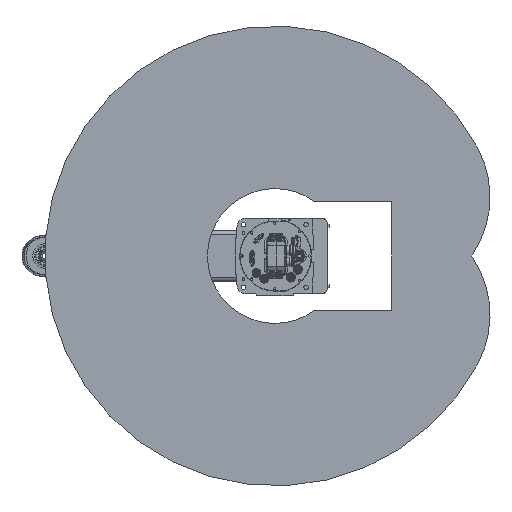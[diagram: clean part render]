
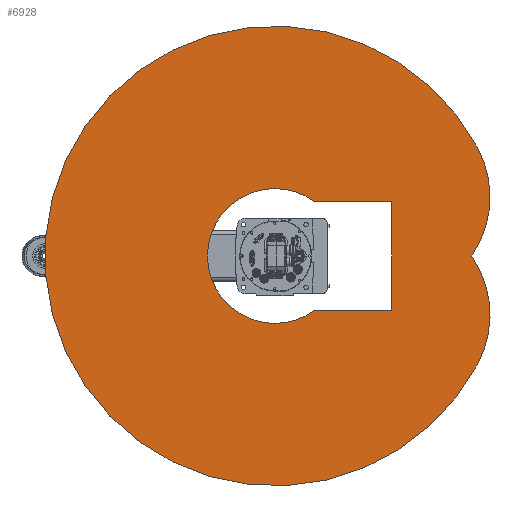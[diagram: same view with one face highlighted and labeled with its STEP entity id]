
A CAD part, front view. The second image highlights one B-rep face of the part: STEP entity #6928.
In plain terms, the highlighted planar face has unit normal (0, -1, 0).
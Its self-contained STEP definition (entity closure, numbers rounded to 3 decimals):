
#6928 = ADVANCED_FACE( '', ( #16084, #16085 ), #16086, .F. );
#16084 = FACE_OUTER_BOUND( '', #27835, .T. );
#16085 = FACE_BOUND( '', #27836, .T. );
#16086 = PLANE( '', #27837 );
#27835 = EDGE_LOOP( '', ( #47462, #47463, #47464 ) );
#27836 = EDGE_LOOP( '', ( #47465, #47466, #47467, #47468 ) );
#27837 = AXIS2_PLACEMENT_3D( '', #47469, #47470, #47471 );
#47462 = ORIENTED_EDGE( '', *, *, #64867, .F. );
#47463 = ORIENTED_EDGE( '', *, *, #62604, .F. );
#47464 = ORIENTED_EDGE( '', *, *, #63249, .F. );
#47465 = ORIENTED_EDGE( '', *, *, #67323, .T. );
#47466 = ORIENTED_EDGE( '', *, *, #63474, .T. );
#47467 = ORIENTED_EDGE( '', *, *, #65746, .T. );
#47468 = ORIENTED_EDGE( '', *, *, #67324, .T. );
#47469 = CARTESIAN_POINT( '', ( 70.421, 0., 132.442 ) );
#47470 = DIRECTION( '', ( 0., 1., 0. ) );
#47471 = DIRECTION( '', ( 0., 0., 1. ) );
#62604 = EDGE_CURVE( '', #74491, #74492, #74493, .T. );
#63249 = EDGE_CURVE( '', #75582, #74491, #75583, .T. );
#63474 = EDGE_CURVE( '', #75954, #75955, #75956, .T. );
#64867 = EDGE_CURVE( '', #74492, #75582, #78163, .T. );
#65746 = EDGE_CURVE( '', #75955, #79522, #79523, .T. );
#67323 = EDGE_CURVE( '', #81738, #75954, #81739, .T. );
#67324 = EDGE_CURVE( '', #79522, #81738, #81740, .T. );
#74491 = VERTEX_POINT( '', #92282 );
#74492 = VERTEX_POINT( '', #92283 );
#74493 = CIRCLE( '', #92284, 250. );
#75582 = VERTEX_POINT( '', #94093 );
#75583 = CIRCLE( '', #94094, 550. );
#75954 = VERTEX_POINT( '', #94777 );
#75955 = VERTEX_POINT( '', #94778 );
#75956 = LINE( '', #94779, #94780 );
#78163 = CIRCLE( '', #98506, 250. );
#79522 = VERTEX_POINT( '', #101000 );
#79523 = LINE( '', #101001, #101002 );
#81738 = VERTEX_POINT( '', #104908 );
#81739 = LINE( '', #104909, #104910 );
#81740 = CIRCLE( '', #104911, 161.22 );
#92282 = CARTESIAN_POINT( '', ( -258.209, 0., 485.621 ) );
#92283 = CARTESIAN_POINT( '', ( 0., 0., 471.436 ) );
#92284 = AXIS2_PLACEMENT_3D( '', #114158, #114159, #114160 );
#94093 = CARTESIAN_POINT( '', ( 258.209, 0., 485.621 ) );
#94094 = AXIS2_PLACEMENT_3D( '', #115076, #115077, #115078 );
#94777 = CARTESIAN_POINT( '', ( -130., 0., 280. ) );
#94778 = CARTESIAN_POINT( '', ( 130., 0., 280. ) );
#94779 = CARTESIAN_POINT( '', ( -130., 0., 280. ) );
#94780 = VECTOR( '', #115353, 1000. );
#98506 = AXIS2_PLACEMENT_3D( '', #117080, #117081, #117082 );
#101000 = CARTESIAN_POINT( '', ( 130., 0., 95.351 ) );
#101001 = CARTESIAN_POINT( '', ( 130., 0., 280. ) );
#101002 = VECTOR( '', #118265, 1000. );
#104908 = CARTESIAN_POINT( '', ( -130., 0., 95.351 ) );
#104909 = CARTESIAN_POINT( '', ( -130., 0., 0. ) );
#104910 = VECTOR( '', #120012, 1000. );
#104911 = AXIS2_PLACEMENT_3D( '', #120013, #120014, #120015 );
#114158 = CARTESIAN_POINT( '', ( -140.841, 0., 264.884 ) );
#114159 = DIRECTION( '', ( 0., 1., 0. ) );
#114160 = DIRECTION( '', ( 1., 0., 0. ) );
#115076 = CARTESIAN_POINT( '', ( 0., 0., 0. ) );
#115077 = DIRECTION( '', ( 0., 1., 0. ) );
#115078 = DIRECTION( '', ( 1., 0., 0. ) );
#115353 = DIRECTION( '', ( 1., 0., 0. ) );
#117080 = CARTESIAN_POINT( '', ( 140.841, 0., 264.884 ) );
#117081 = DIRECTION( '', ( 0., 1., 0. ) );
#117082 = DIRECTION( '', ( 1., 0., 0. ) );
#118265 = DIRECTION( '', ( 0., 0., -1. ) );
#120012 = DIRECTION( '', ( 0., 0., 1. ) );
#120013 = CARTESIAN_POINT( '', ( 0., 0., 0. ) );
#120014 = DIRECTION( '', ( 0., 1., 0. ) );
#120015 = DIRECTION( '', ( 1., 0., 0. ) );
